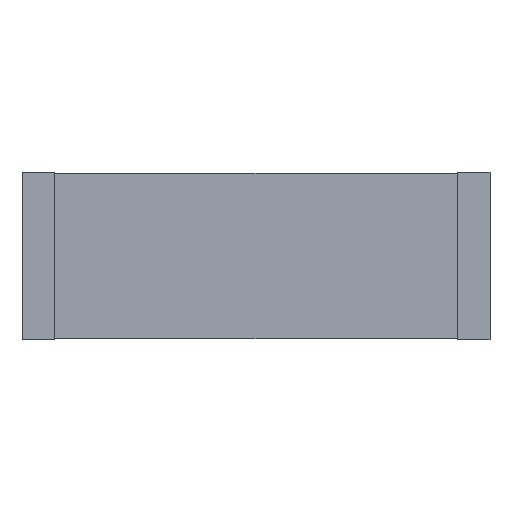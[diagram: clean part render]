
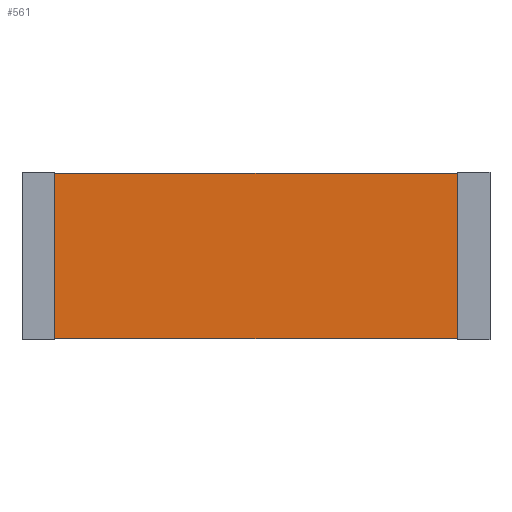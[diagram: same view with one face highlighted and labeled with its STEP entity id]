
A CAD part, front view. The second image highlights one B-rep face of the part: STEP entity #561.
In plain terms, the highlighted planar face has unit normal (0, -1, 0).
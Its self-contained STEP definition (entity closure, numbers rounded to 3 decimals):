
#21=FACE_OUTER_BOUND('',#53,.T.);
#53=EDGE_LOOP('',(#361,#362,#363,#364));
#81=LINE('',#768,#153);
#85=LINE('',#776,#157);
#88=LINE('',#782,#160);
#91=LINE('',#787,#163);
#153=VECTOR('',#630,3.152);
#157=VECTOR('',#636,8.862);
#160=VECTOR('',#641,3.152);
#163=VECTOR('',#646,8.862);
#225=VERTEX_POINT('',#766);
#226=VERTEX_POINT('',#767);
#229=VERTEX_POINT('',#775);
#231=VERTEX_POINT('',#781);
#273=EDGE_CURVE('',#225,#226,#81,.T.);
#277=EDGE_CURVE('',#226,#229,#85,.T.);
#280=EDGE_CURVE('',#229,#231,#88,.T.);
#283=EDGE_CURVE('',#231,#225,#91,.T.);
#361=ORIENTED_EDGE('',*,*,#283,.T.);
#362=ORIENTED_EDGE('',*,*,#273,.T.);
#363=ORIENTED_EDGE('',*,*,#277,.T.);
#364=ORIENTED_EDGE('',*,*,#280,.T.);
#493=PLANE('',#598);
#561=ADVANCED_FACE('',(#21),#493,.F.);
#598=AXIS2_PLACEMENT_3D('',#789,#648,#649);
#630=DIRECTION('',(0.,0.,1.));
#636=DIRECTION('',(-1.,0.,0.));
#641=DIRECTION('',(0.,0.,-1.));
#646=DIRECTION('',(1.,0.,0.));
#648=DIRECTION('center_axis',(0.,1.,0.));
#649=DIRECTION('ref_axis',(0.,0.,1.));
#766=CARTESIAN_POINT('',(8.862,0.,0.));
#767=CARTESIAN_POINT('',(8.862,0.,3.152));
#768=CARTESIAN_POINT('',(8.862,0.,0.));
#775=CARTESIAN_POINT('',(0.,0.,3.152));
#776=CARTESIAN_POINT('',(8.862,0.,3.152));
#781=CARTESIAN_POINT('',(0.,0.,0.));
#782=CARTESIAN_POINT('',(0.,0.,3.152));
#787=CARTESIAN_POINT('',(0.,0.,0.));
#789=CARTESIAN_POINT('Origin',(4.431,0.,1.576));
